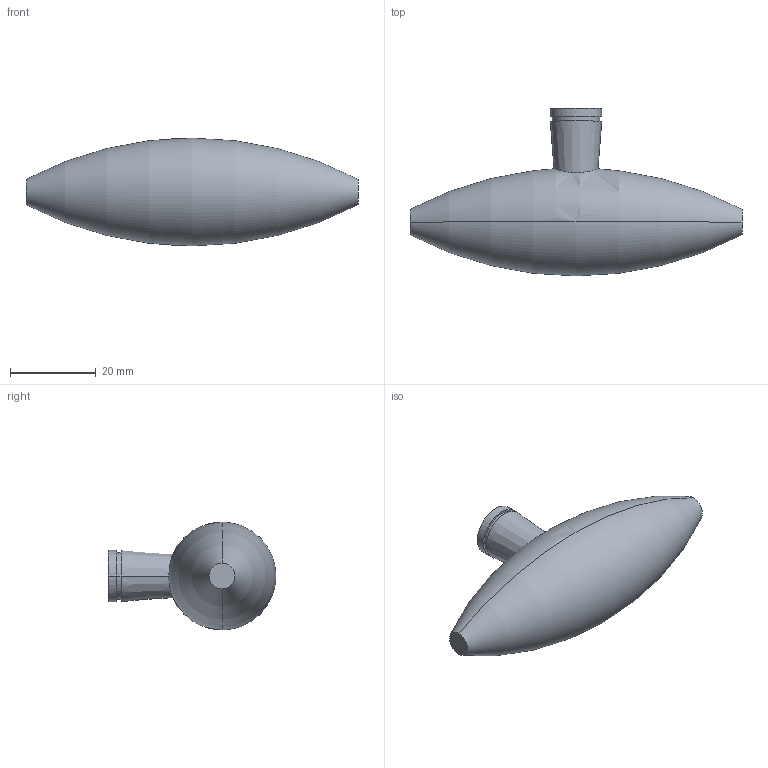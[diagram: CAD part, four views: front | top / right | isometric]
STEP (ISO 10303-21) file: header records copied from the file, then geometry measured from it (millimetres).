
FILE_DESCRIPTION( ( '' ), '1' );
FILE_NAME( 'C:/Documents and Settings/Nikhil/Desktop/Nik/Done/9070510.stp', '2013-10-23T09:47:04', ( '' ), ( '' ), ' ', ' ', ' ' );
FILE_SCHEMA( ( 'automotive_design' ) );
Length unit declared in the file: millimetre
Products named in the file (1): 1
Bounding box: 77.4 x 39.1 x 25.1 mm (x, y, z)
Volume: 24924.7 mm3; surface area: 5483 mm2
Topology: 1 solids, 1 shells, 16 faces, 33 edges, 23 vertices
Faces by surface type: plane 6, cylinder 6, cone 2, torus 2
Entity records: 910 total; most frequent: CARTESIAN_POINT 114, DIRECTION 86, STYLED_ITEM 73, PRESENTATION_STYLE_ASSIGNMENT 73, COLOUR_RGB 73, ORIENTED_EDGE 66, AXIS2_PLACEMENT_3D 39, EDGE_CURVE 33
